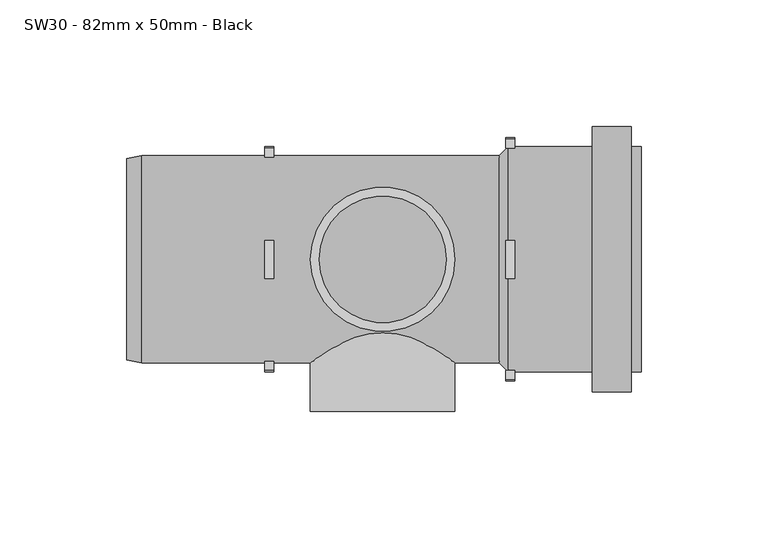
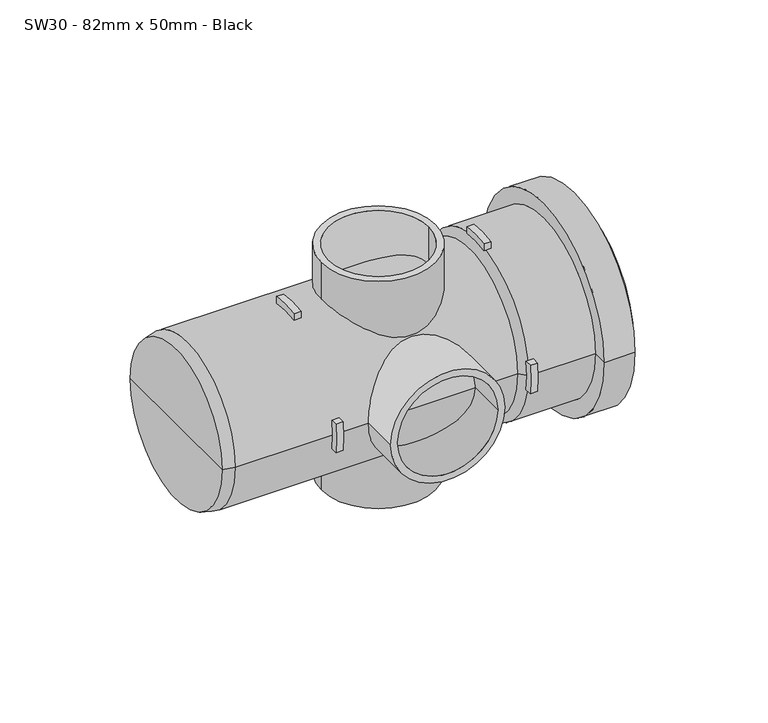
"""IFC4 building model written with IfcOpenShell, lengths in millimetres: pipe fitting geometry, MarleyPlumbingAndDrainage_PipeFitting_BossPipe_SW30 : SW30 - 82mm x 50mm - Black."""

from ifc_helpers import new_model, si_unit, point, frame, frame_2d, origin, origin_2d, place, context, project, spatial, polyline, circle_curve, trimmed, segment, composite_curve, outline, extrude, source, transform, mapped, element, save
from ifc_brep_helpers import plane_surface, cylinder_surface, revolved_surface, advanced_brep


def sw30_82mm_x_50mm_black_bf87715c(model_context):
    return source(origin(), model_context, "Body", "SolidModel", [
        extrude(outline(composite_curve([segment(polyline([(-7.5, 40.3081878), (-7.5, 43.8634244)]), True, "CONTINUOUS"), segment(trimmed(circle_curve(origin_2d(), 44.5), [point((-7.5, 43.8634244))], [point((7.5, 43.8634244))], False, "CARTESIAN"), True, "CONTINUOUS"), segment(polyline([(7.5, 43.8634244), (7.5, 40.3081878)]), True, "CONTINUOUS"), segment(trimmed(circle_curve(origin_2d(), 41.0), [point((7.5, 40.3081878))], [point((-7.5, 40.3081878))], True, "CARTESIAN"), True, "CONTINUOUS")], self_intersect=False)), frame((-48.5667881, 0.0, 0.0), z_axis=(1.0, 0.0, 0.0), x_axis=(0.0, 1.0, 0.0)), (0.0, 0.0, 1.0), 3.5),
        extrude(outline(composite_curve([segment(polyline([(40.3081878, 7.5), (43.8634244, 7.5)]), True, "CONTINUOUS"), segment(trimmed(circle_curve(origin_2d(), 44.5), [point((43.8634244, 7.5))], [point((43.8634244, -7.5))], False, "CARTESIAN"), True, "CONTINUOUS"), segment(polyline([(43.8634244, -7.5), (40.3081878, -7.5)]), True, "CONTINUOUS"), segment(trimmed(circle_curve(origin_2d(), 41.0), [point((40.3081878, -7.5))], [point((40.3081878, 7.5))], True, "CARTESIAN"), True, "CONTINUOUS")], self_intersect=False)), frame((-48.5667881, 0.0, 0.0), z_axis=(1.0, 0.0, 0.0), x_axis=(0.0, 1.0, 0.0)), (0.0, 0.0, 1.0), 3.5),
        extrude(outline(composite_curve([segment(polyline([(-43.8634244, 7.5), (-40.3081878, 7.5)]), True, "CONTINUOUS"), segment(trimmed(circle_curve(origin_2d(), 41.0), [point((-40.3081878, 7.5))], [point((-40.3081878, -7.5))], True, "CARTESIAN"), True, "CONTINUOUS"), segment(polyline([(-40.3081878, -7.5), (-43.8634244, -7.5)]), True, "CONTINUOUS"), segment(trimmed(circle_curve(origin_2d(), 44.5), [point((-43.8634244, -7.5))], [point((-43.8634244, 7.5))], False, "CARTESIAN"), True, "CONTINUOUS")], self_intersect=False)), frame((-48.5667881, 0.0, 0.0), z_axis=(1.0, 0.0, 0.0), x_axis=(0.0, 1.0, 0.0)), (0.0, 0.0, 1.0), 3.5),
        extrude(outline(composite_curve([segment(polyline([(-7.5, -43.8634244), (-7.5, -40.3081878)]), True, "CONTINUOUS"), segment(trimmed(circle_curve(origin_2d(), 41.0), [point((-7.5, -40.3081878))], [point((7.5, -40.3081878))], True, "CARTESIAN"), True, "CONTINUOUS"), segment(polyline([(7.5, -40.3081878), (7.5, -43.8634244)]), True, "CONTINUOUS"), segment(trimmed(circle_curve(origin_2d(), 44.5), [point((7.5, -43.8634244))], [point((-7.5, -43.8634244))], False, "CARTESIAN"), True, "CONTINUOUS")], self_intersect=False)), frame((-48.5667881, 0.0, 0.0), z_axis=(1.0, 0.0, 0.0), x_axis=(0.0, 1.0, 0.0)), (0.0, 0.0, 1.0), 3.5),
        extrude(outline(composite_curve([segment(polyline([(-43.8634244, -7.5), (-47.4104419, -7.5)]), True, "CONTINUOUS"), segment(trimmed(circle_curve(origin_2d(), 48.0), [point((-47.4104419, -7.5))], [point((-47.4104419, 7.5))], False, "CARTESIAN"), True, "CONTINUOUS"), segment(polyline([(-47.4104419, 7.5), (-43.8634244, 7.5)]), True, "CONTINUOUS"), segment(trimmed(circle_curve(origin_2d(), 44.5), [point((-43.8634244, 7.5))], [point((-43.8634244, -7.5))], True, "CARTESIAN"), True, "CONTINUOUS")], self_intersect=False)), frame((46.4332119, 0.0, 0.0), z_axis=(1.0, 0.0, 0.0), x_axis=(0.0, 1.0, 0.0)), (0.0, 0.0, 1.0), 3.5),
        extrude(outline(composite_curve([segment(trimmed(circle_curve(origin_2d(), 44.5), [point((7.5, 43.8634244))], [point((-7.5, 43.8634244))], True, "CARTESIAN"), True, "CONTINUOUS"), segment(polyline([(-7.5, 43.8634244), (-7.5, 47.4104419)]), True, "CONTINUOUS"), segment(trimmed(circle_curve(origin_2d(), 48.0), [point((-7.5, 47.4104419))], [point((7.5, 47.4104419))], False, "CARTESIAN"), True, "CONTINUOUS"), segment(polyline([(7.5, 47.4104419), (7.5, 43.8634244)]), True, "CONTINUOUS")], self_intersect=False)), frame((46.4332119, 0.0, 0.0), z_axis=(1.0, 0.0, 0.0), x_axis=(0.0, 1.0, 0.0)), (0.0, 0.0, 1.0), 3.5),
        extrude(outline(composite_curve([segment(polyline([(43.8634244, 7.5), (47.4104419, 7.5)]), True, "CONTINUOUS"), segment(trimmed(circle_curve(origin_2d(), 48.0), [point((47.4104419, 7.5))], [point((47.4104419, -7.5))], False, "CARTESIAN"), True, "CONTINUOUS"), segment(polyline([(47.4104419, -7.5), (43.8634244, -7.5)]), True, "CONTINUOUS"), segment(trimmed(circle_curve(origin_2d(), 44.5), [point((43.8634244, -7.5))], [point((43.8634244, 7.5))], True, "CARTESIAN"), True, "CONTINUOUS")], self_intersect=False)), frame((46.4332119, 0.0, 0.0), z_axis=(1.0, 0.0, 0.0), x_axis=(0.0, 1.0, 0.0)), (0.0, 0.0, 1.0), 3.5),
        extrude(outline(composite_curve([segment(polyline([(-7.5, -47.4104419), (-7.5, -43.8634244)]), True, "CONTINUOUS"), segment(trimmed(circle_curve(origin_2d(), 44.5), [point((-7.5, -43.8634244))], [point((7.5, -43.8634244))], True, "CARTESIAN"), True, "CONTINUOUS"), segment(polyline([(7.5, -43.8634244), (7.5, -47.4104419)]), True, "CONTINUOUS"), segment(trimmed(circle_curve(origin_2d(), 48.0), [point((7.5, -47.4104419))], [point((-7.5, -47.4104419))], False, "CARTESIAN"), True, "CONTINUOUS")], self_intersect=False)), frame((46.4332119, 0.0, 0.0), z_axis=(1.0, 0.0, 0.0), x_axis=(0.0, 1.0, 0.0)), (0.0, 0.0, 1.0), 3.5),
        extrude(outline(composite_curve([segment(trimmed(circle_curve(frame_2d((0.0, -2.0667881)), 28.5), [point((0.0, -30.5667881))], [point((0.0, 26.4332119))], False, "CARTESIAN"), True, "CONTINUOUS"), segment(trimmed(circle_curve(frame_2d((0.0, -2.0667881)), 28.5), [point((0.0, 26.4332119))], [point((0.0, -30.5667881))], False, "CARTESIAN"), True, "CONTINUOUS")], self_intersect=False), holes=[composite_curve([segment(trimmed(circle_curve(frame_2d((0.0, -2.0667881)), 25.0), [point((0.0, -27.0667881))], [point((0.0, 22.9332119))], True, "CARTESIAN"), True, "CONTINUOUS"), segment(trimmed(circle_curve(frame_2d((0.0, -2.0667881)), 25.0), [point((0.0, 22.9332119))], [point((0.0, -27.0667881))], True, "CARTESIAN"), True, "CONTINUOUS")], self_intersect=False)]), frame((0.0, -60.0, 0.0), z_axis=(0.0, 1.0, 0.0), x_axis=(0.0, 0.0, 1.0)), (0.0, 0.0, 1.0), 60.0),
        extrude(outline(composite_curve([segment(trimmed(circle_curve(frame_2d((-2.0667881, 0.0)), 28.5), [point((-30.5667881, 0.0))], [point((26.4332119, 0.0))], False, "CARTESIAN"), True, "CONTINUOUS"), segment(trimmed(circle_curve(frame_2d((-2.0667881, 0.0)), 28.5), [point((26.4332119, 0.0))], [point((-30.5667881, 0.0))], False, "CARTESIAN"), True, "CONTINUOUS")], self_intersect=False), holes=[composite_curve([segment(trimmed(circle_curve(frame_2d((-2.0667881, 0.0)), 25.0), [point((-27.0667881, 0.0))], [point((22.9332119, 0.0))], True, "CARTESIAN"), True, "CONTINUOUS"), segment(trimmed(circle_curve(frame_2d((-2.0667881, 0.0)), 25.0), [point((22.9332119, 0.0))], [point((-27.0667881, 0.0))], True, "CARTESIAN"), True, "CONTINUOUS")], self_intersect=False)]), frame((0.0, 0.0, -60.0), z_axis=(0.0, 0.0, 1.0), x_axis=(1.0, 0.0, 0.0)), (0.0, 0.0, 1.0), 120.0),
        advanced_brep(
        [(47.4332119, -41.0, 0.0), (47.4332119, 41.0, 0.0), (47.4332119, 0.0, 0.0), (99.9332119, -41.0, 0.0), (99.9332119, 41.0, 0.0), (99.9332119, -44.5, 0.0), (99.9332119, 44.5, 0.0), (47.4332119, -44.5, 0.0), (47.4332119, 44.5, 0.0), (80.5299398, 44.5, 0.0), (80.5299398, -44.5, 0.0), (43.9332119, -41.0, 0.0), (43.9332119, 41.0, 0.0), (-97.0667881, -41.0, 0.0), (-97.0667881, 41.0, 0.0), (-103.0667881, 0.0, 0.0), (-103.0667881, 39.6923048, 0.0), (-103.0667881, -39.6923048, 0.0), (95.899095, -44.5, 0.0), (95.899095, 44.5, 0.0), (95.899095, -52.400323, 0.0), (95.899095, 52.400323, 0.0), (80.5299398, -52.400323, 0.0), (80.5299398, 52.400323, 0.0)],
        [
            (0, 1, circle_curve(frame((47.4332119, 0.0, 0.0), z_axis=(1.0, 0.0, 0.0), x_axis=(0.0, 1.0, 0.0)), 41.0)),
            (1, 2),
            (2, 0),
            (1, 0, circle_curve(frame((47.4332119, 0.0, 0.0), z_axis=(1.0, 0.0, 0.0), x_axis=(0.0, 1.0, 0.0)), 41.0)),
            (3, 4, circle_curve(frame((99.9332119, 0.0, 0.0), z_axis=(1.0, 0.0, 0.0), x_axis=(0.0, 1.0, 0.0)), 41.0)),
            (4, 1),
            (0, 3),
            (4, 3, circle_curve(frame((99.9332119, 0.0, 0.0), z_axis=(1.0, 0.0, 0.0), x_axis=(0.0, 1.0, 0.0)), 41.0)),
            (5, 6, circle_curve(frame((99.9332119, 0.0, 0.0), z_axis=(1.0, 0.0, 0.0), x_axis=(0.0, 1.0, 0.0)), 44.5)),
            (6, 4),
            (3, 5),
            (6, 5, circle_curve(frame((99.9332119, 0.0, 0.0), z_axis=(1.0, 0.0, 0.0), x_axis=(0.0, 1.0, 0.0)), 44.5)),
            (7, 8, circle_curve(frame((47.4332119, 0.0, 0.0), z_axis=(1.0, 0.0, 0.0), x_axis=(0.0, 1.0, 0.0)), 44.5)),
            (8, 9),
            (9, 10, circle_curve(frame((80.5299398, 0.0, 0.0), z_axis=(-1.0, 0.0, 0.0), x_axis=(0.0, 1.0, 0.0)), 44.5)),
            (10, 7),
            (8, 7, circle_curve(frame((47.4332119, 0.0, 0.0), z_axis=(1.0, 0.0, 0.0), x_axis=(0.0, 1.0, 0.0)), 44.5)),
            (10, 9, circle_curve(frame((80.5299398, 0.0, 0.0), z_axis=(-1.0, 0.0, 0.0), x_axis=(0.0, 1.0, 0.0)), 44.5)),
            (11, 12, circle_curve(frame((43.9332119, 0.0, 0.0), z_axis=(1.0, 0.0, 0.0), x_axis=(0.0, 1.0, 0.0)), 41.0)),
            (12, 8),
            (7, 11),
            (12, 11, circle_curve(frame((43.9332119, 0.0, 0.0), z_axis=(1.0, 0.0, 0.0), x_axis=(0.0, 1.0, 0.0)), 41.0)),
            (13, 14, circle_curve(frame((-97.0667881, 0.0, 0.0), z_axis=(1.0, 0.0, 0.0), x_axis=(0.0, 1.0, 0.0)), 41.0)),
            (14, 12),
            (11, 13),
            (14, 13, circle_curve(frame((-97.0667881, 0.0, 0.0), z_axis=(1.0, 0.0, 0.0), x_axis=(0.0, 1.0, 0.0)), 41.0)),
            (15, 16),
            (16, 17, circle_curve(frame((-103.0667881, 0.0, 0.0), z_axis=(-1.0, 0.0, 0.0), x_axis=(0.0, 1.0, 0.0)), 39.6923048)),
            (17, 15),
            (17, 16, circle_curve(frame((-103.0667881, 0.0, 0.0), z_axis=(-1.0, 0.0, 0.0), x_axis=(0.0, 1.0, 0.0)), 39.6923048)),
            (18, 19, circle_curve(frame((95.899095, 0.0, 0.0), z_axis=(1.0, 0.0, 0.0), x_axis=(0.0, 1.0, 0.0)), 44.5)),
            (19, 6),
            (5, 18),
            (19, 18, circle_curve(frame((95.899095, 0.0, 0.0), z_axis=(1.0, 0.0, 0.0), x_axis=(0.0, 1.0, 0.0)), 44.5)),
            (20, 21, circle_curve(frame((95.899095, 0.0, 0.0), z_axis=(1.0, 0.0, 0.0), x_axis=(0.0, 1.0, 0.0)), 52.400323)),
            (21, 19),
            (18, 20),
            (21, 20, circle_curve(frame((95.899095, 0.0, 0.0), z_axis=(1.0, 0.0, 0.0), x_axis=(0.0, 1.0, 0.0)), 52.400323)),
            (22, 23, circle_curve(frame((80.5299398, 0.0, 0.0), z_axis=(1.0, 0.0, 0.0), x_axis=(0.0, 1.0, 0.0)), 52.400323)),
            (23, 21),
            (20, 22),
            (23, 22, circle_curve(frame((80.5299398, 0.0, 0.0), z_axis=(1.0, 0.0, 0.0), x_axis=(0.0, 1.0, 0.0)), 52.400323)),
            (9, 23),
            (22, 10),
            (16, 14),
            (13, 17),
        ],
        [
            plane_surface(frame((47.4332119, 0.0, 0.0), z_axis=(1.0, 0.0, 0.0), x_axis=(0.0, 1.0, 0.0))),
            revolved_surface(polyline([(47.43321190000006, 41.0, 0.0), (99.93321190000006, 41.0, 0.0)]), (1965.5, 0.0, 0.0), (-1.0, 0.0, 0.0)),
            plane_surface(frame((99.9332119, 0.0, 0.0), z_axis=(1.0, 0.0, 0.0), x_axis=(0.0, 1.0, 0.0))),
            cylinder_surface(frame((1965.5, 0.0, 0.0), z_axis=(-1.0, 0.0, 0.0), x_axis=(0.0, 1.0, 0.0)), 44.5),
            revolved_surface(polyline([(47.4332119, 44.5, 0.0), (43.9332119, 41.0, 0.0)]), (1965.5, 0.0, 0.0), (-1.0, 0.0, 0.0)),
            cylinder_surface(frame((1965.5, 0.0, 0.0), z_axis=(-1.0, 0.0, 0.0), x_axis=(0.0, 1.0, 0.0)), 41.0),
            plane_surface(frame((-103.0667881, 0.0, 0.0), z_axis=(-1.0, 0.0, 0.0), x_axis=(0.0, 1.0, 0.0))),
            plane_surface(frame((95.899095, 0.0, 0.0), z_axis=(1.0, 0.0, 0.0), x_axis=(0.0, 1.0, 0.0))),
            cylinder_surface(frame((1965.5, 0.0, 0.0), z_axis=(-1.0, 0.0, 0.0), x_axis=(0.0, 1.0, 0.0)), 52.400323),
            plane_surface(frame((80.5299398, 0.0, 0.0), z_axis=(-1.0, 0.0, 0.0), x_axis=(0.0, 1.0, 0.0))),
            revolved_surface(polyline([(-97.0667881, 41.0, 0.0), (-103.0667881, 39.6923048, 0.0)]), (1965.5, 0.0, 0.0), (-1.0, 0.0, 0.0)),
        ],
        [
            (0, [[1, 2, 3]]),
            (0, [[4, -3, -2]]),
            (1, [[5, 6, -1, 7]]),
            (1, [[8, -7, -4, -6]]),
            (2, [[9, 10, -5, 11]]),
            (2, [[12, -11, -8, -10]]),
            (3, [[13, 14, 15, 16]]),
            (3, [[17, -16, 18, -14]]),
            (4, [[19, 20, -13, 21]]),
            (4, [[22, -21, -17, -20]]),
            (5, [[23, 24, -19, 25]]),
            (5, [[26, -25, -22, -24]]),
            (6, [[27, 28, 29]]),
            (6, [[-29, 30, -27]]),
            (3, [[31, 32, -9, 33]]),
            (3, [[34, -33, -12, -32]]),
            (7, [[35, 36, -31, 37]]),
            (7, [[38, -37, -34, -36]]),
            (8, [[39, 40, -35, 41]]),
            (8, [[42, -41, -38, -40]]),
            (9, [[-15, 43, -39, 44]]),
            (9, [[-18, -44, -42, -43]]),
            (10, [[-28, 45, -23, 46]]),
            (10, [[-30, -46, -26, -45]]),
        ],
    ),
    ])


if __name__ == "__main__":
    model = new_model("IFC4")
    model_context = context("Model", 3, world=origin())
    ifc_project = project(units=[si_unit("LENGTHUNIT", "METRE", prefix="MILLI")], contexts=[model_context])
    site = spatial("IfcSite", under=ifc_project)
    building = spatial("IfcBuilding", under=site)
    placement = place(None, origin())
    sw30_82mm_x_50mm_black_shape = sw30_82mm_x_50mm_black_bf87715c(model_context)
    element("IfcPipeFitting", 1, ObjectType="MarleyPlumbingAndDrainage_PipeFitting_BossPipe_SW30 : SW30 - 82mm x 50mm - Black", at=placement, inside=building, context=model_context, shape_type="MappedRepresentation", body=[
        mapped(sw30_82mm_x_50mm_black_shape, transform((0.0, 0.0, 0.0), x_axis=(1.0, 0.0, 0.0), y_axis=(0.0, 1.0, 0.0), z_axis=(0.0, 0.0, 1.0))),
    ])
    save(model, "model.ifc")
